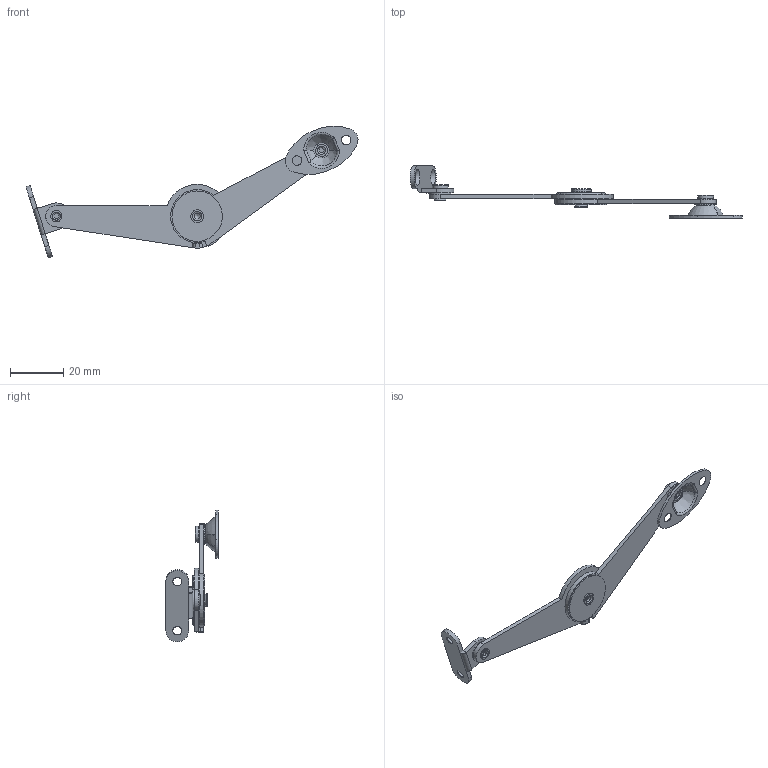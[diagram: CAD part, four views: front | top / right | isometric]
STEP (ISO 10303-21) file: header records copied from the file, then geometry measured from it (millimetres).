
FILE_DESCRIPTION((''),'2;1');
FILE_NAME('\\Cad-srv01-2\図面\900 図面交換受渡し場所\■■カタログ作成中（消さないでください)■■\1203　APPIT　3D\03購買先データ\双葉\ステー\ｽﾃｰ\EDS-23 R\EDS-23 R.stp','2013-07-11T15:47:09',('Administrator'),(''),'Autodesk Inventor 11','Autodesk Inventor 11','');
FILE_SCHEMA(('AUTOMOTIVE_DESIGN { 1 0 10303 214 1 1 1 1 }'));
Length unit declared in the file: millimetre
Products named in the file (12): S-23R-SD_ｽﾃｰ(右付き); S-0602_L(); S-063N_N_(); s-0206_O; S-2304R_B; S-1902_Se; S-06RA_eA; S-06R_e; S-2302__B; S-2303_A; S-2305__; S-2301C__C
Assembly tree (12 placements, depth 2):
  S-23R-SD_ｽﾃｰ(右付き)
    S-0602_L()
    S-063N_N_()  x2
    s-0206_O
    S-2304R_B
    S-1902_Se
    S-06RA_eA
    S-06R_e
    S-2302__B
    S-2303_A
    S-2305__
    S-2301C__C
Bounding box: 125.02 x 19.7 x 49.49 mm (x, y, z)
Volume: 4216 mm3; surface area: 7608.4 mm2
Topology: 12 solids, 12 shells, 174 faces, 385 edges, 242 vertices
Faces by surface type: cylinder 67, plane 61, bspline 21, torus 16, cone 5, sphere 4
Full cylindrical faces by diameter (mm): 2 x2, 2.4 x1, 3 x2, 3.1 x3, 3.2 x3, 3.3 x2, 4 x1, 4.1 x3, 4.2 x1, 4.5 x2, 4.8 x1, 5 x1, 6 x2, 7.5 x1, 8 x3, 19 x1
Entity records: 9589 total; most frequent: CARTESIAN_POINT 5679, DIRECTION 774, ORIENTED_EDGE 658, AXIS2_PLACEMENT_3D 329, EDGE_CURVE 329, EDGE_LOOP 251, VERTEX_POINT 234, FACE_OUTER_BOUND 170
